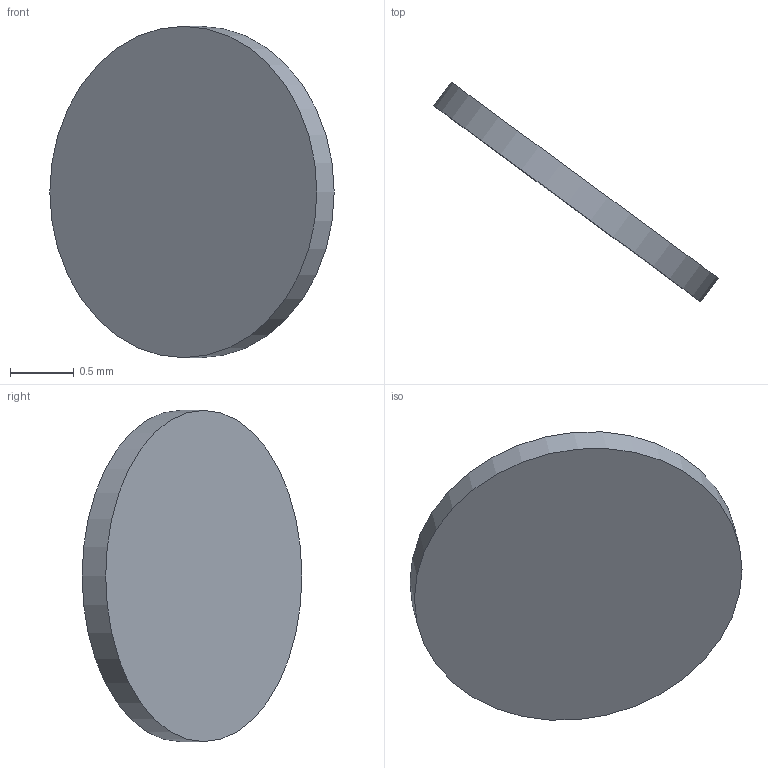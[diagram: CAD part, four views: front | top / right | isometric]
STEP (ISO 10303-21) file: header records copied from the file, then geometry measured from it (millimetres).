
FILE_DESCRIPTION(('FreeCAD Model'),'2;1');
FILE_NAME('Open CASCADE Shape Model','2026-10-23T21:15:57',('FreeCAD'),( 'FreeCAD'),'Open CASCADE STEP processor 7.8','FreeCAD','Unknown');
FILE_SCHEMA(('AUTOMOTIVE_DESIGN { 1 0 10303 214 1 1 1 1 }'));
Length unit declared in the file: millimetre
Products named in the file (1): Open CASCADE STEP translator 7.8 15
Bounding box: 2.23 x 1.72 x 2.6 mm (x, y, z)
Volume: 1.2 mm3; surface area: 12.5 mm2
Topology: 1 solids, 1 shells, 3 faces, 3 edges, 2 vertices
Faces by surface type: plane 2, cylinder 1
Full cylindrical faces by diameter (mm): 2.6 x1
Entity records: 69 total; most frequent: DIRECTION 13, CARTESIAN_POINT 9, AXIS2_PLACEMENT_3D 6, ORIENTED_EDGE 6, ADVANCED_FACE 3, FACE_BOUND 3, EDGE_LOOP 3, EDGE_CURVE 3
